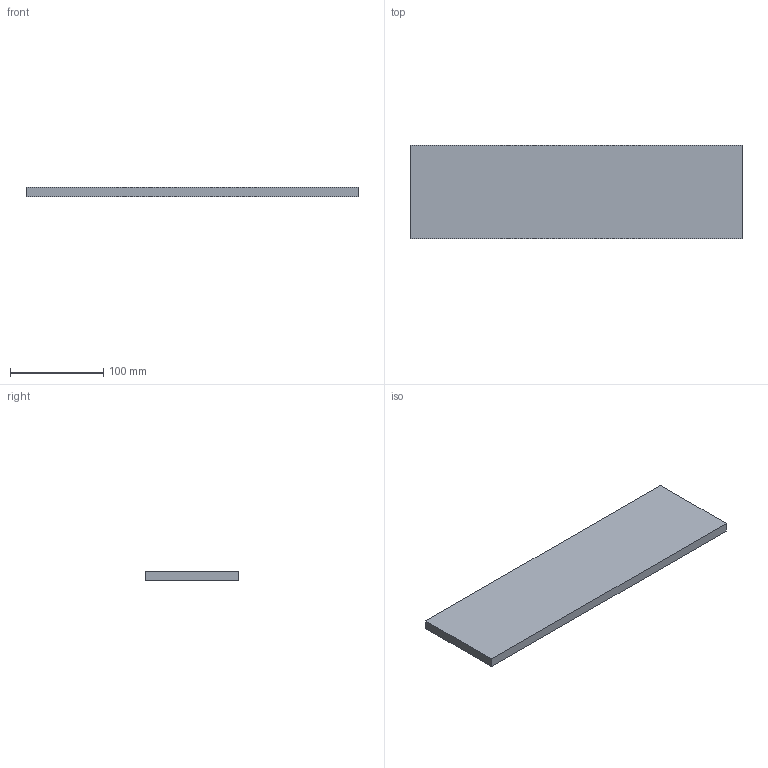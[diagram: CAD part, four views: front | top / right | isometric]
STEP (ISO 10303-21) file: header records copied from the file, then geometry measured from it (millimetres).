
FILE_DESCRIPTION(('CAx-IF Rec.Pracs.---Model Styling and Organization---1.2---2011-12-15','CAx-IF Rec.Pracs.---Geometric and Assembly Validation Properties---4.1---2014-06-16','CAx-IF Rec.Pracs.---PMI Polyline Presentation---2.0---2013-05-24'),'2;1');
FILE_NAME('R5BBSD04.stp','2021-05-06T03:20:07+03:00',(''),(''),'STEP Interface 4.4 by CT CoreTechnologie','3D_Evolution4.4 by CT CoreTechnologie','');
FILE_SCHEMA(('AUTOMOTIVE_DESIGN { 1 0 10303 214 1 1 1 1 }'));
Length unit declared in the file: millimetre
Products named in the file (2): R5BBSD04; RB.1304.00.00.0_-00
Assembly tree (1 placements, depth 2):
  R5BBSD04
    RB.1304.00.00.0_-00
Bounding box: 356 x 100 x 10 mm (x, y, z)
Surface area: 80320 mm2 (no closed solid volume)
Topology: 0 solids, 1 shells, 6 faces, 12 edges, 8 vertices
Faces by surface type: plane 6
Entity records: 229 total; most frequent: CARTESIAN_POINT 28, DIRECTION 28, ORIENTED_EDGE 24, VECTOR 12, LINE 12, EDGE_CURVE 12, AXIS2_PLACEMENT_3D 8, VERTEX_POINT 8
